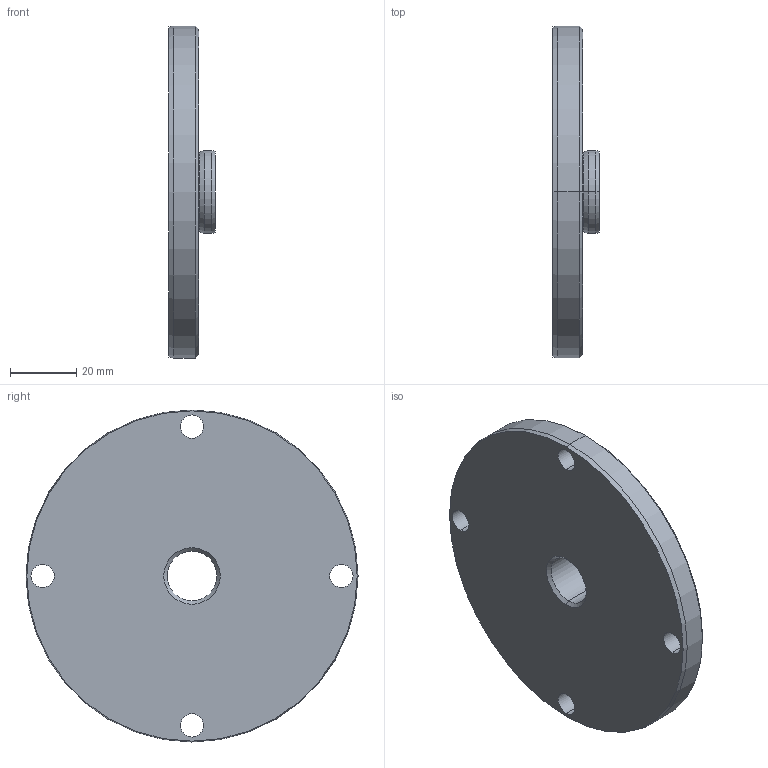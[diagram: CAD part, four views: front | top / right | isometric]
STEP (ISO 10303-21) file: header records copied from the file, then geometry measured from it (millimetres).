
FILE_DESCRIPTION (( 'STEP AP214' ), '1' );
FILE_NAME ('34833 TOMBSTONE PILOT.STEP', '2014-09-18T17:56:38', ( '' ), ( '' ), 'SwSTEP 2.0', 'SolidWorks 2012', '' );
FILE_SCHEMA (( 'AUTOMOTIVE_DESIGN' ));
Length unit declared in the file: millimetre
Products named in the file (1): 34833 TOMBSTONE PILOT
Bounding box: 14 x 100 x 100 mm (x, y, z)
Volume: 68909.3 mm3; surface area: 19433.5 mm2
Topology: 1 solids, 1 shells, 43 faces, 104 edges, 60 vertices
Faces by surface type: cone 22, cylinder 14, torus 4, plane 3
Entity records: 1459 total; most frequent: DIRECTION 248, CARTESIAN_POINT 226, ORIENTED_EDGE 208, AXIS2_PLACEMENT_3D 106, EDGE_CURVE 104, CIRCLE 62, VERTEX_POINT 60, EDGE_LOOP 50
